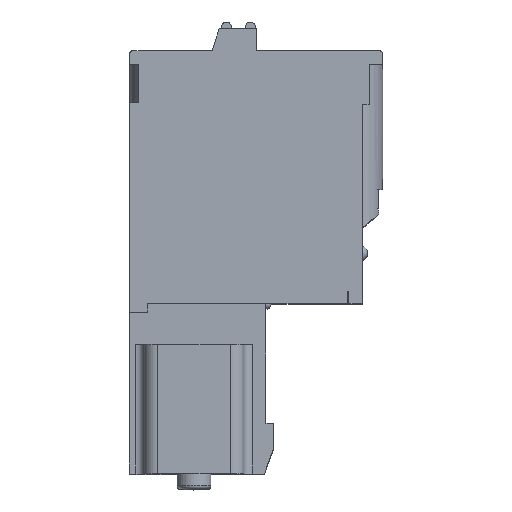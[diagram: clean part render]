
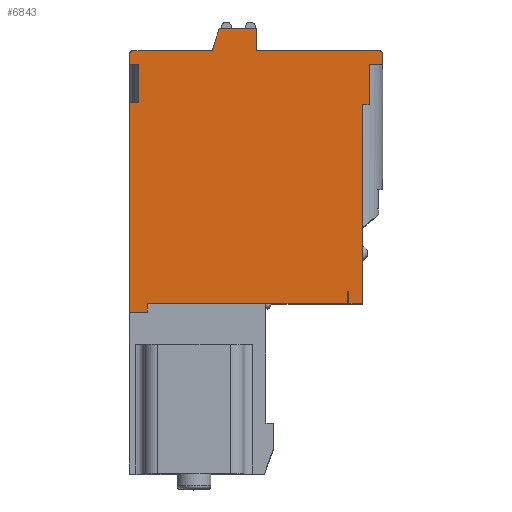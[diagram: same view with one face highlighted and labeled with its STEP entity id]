
A CAD part, top view. The second image highlights one B-rep face of the part: STEP entity #6843.
In plain terms, the highlighted planar face has unit normal (0, 0, 1).
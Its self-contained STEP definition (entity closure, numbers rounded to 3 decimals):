
#93=DIRECTION('',(-1.,0.,0.));
#94=VECTOR('',#93,4.703);
#95=CARTESIAN_POINT('',(4.903,15.5,0.));
#96=LINE('',#95,#94);
#328=DIRECTION('',(0.,1.,0.));
#329=VECTOR('',#328,0.7);
#330=CARTESIAN_POINT('',(12.9,0.5,0.));
#331=LINE('',#330,#329);
#332=DIRECTION('',(0.,1.,0.));
#333=VECTOR('',#332,0.7);
#334=CARTESIAN_POINT('',(13.,0.5,0.));
#335=LINE('',#334,#333);
#336=DIRECTION('',(1.,0.,0.));
#337=VECTOR('',#336,0.1);
#338=CARTESIAN_POINT('',(12.9,1.2,0.));
#339=LINE('',#338,#337);
#340=DIRECTION('',(-1.,0.,0.));
#341=VECTOR('',#340,1.054);
#342=CARTESIAN_POINT('',(1.054,0.,0.));
#343=LINE('',#342,#341);
#344=DIRECTION('',(0.,1.,0.));
#345=VECTOR('',#344,12.45);
#346=CARTESIAN_POINT('',(0.,0.,0.));
#347=LINE('',#346,#345);
#348=DIRECTION('',(1.,0.,0.));
#349=VECTOR('',#348,0.55);
#350=CARTESIAN_POINT('',(0.,12.45,0.));
#351=LINE('',#350,#349);
#352=DIRECTION('',(0.,1.,0.));
#353=VECTOR('',#352,2.25);
#354=CARTESIAN_POINT('',(0.55,12.45,0.));
#355=LINE('',#354,#353);
#356=DIRECTION('',(0.,1.,0.));
#357=VECTOR('',#356,0.6);
#358=CARTESIAN_POINT('',(0.,14.7,0.));
#359=LINE('',#358,#357);
#360=CARTESIAN_POINT('',(0.2,15.3,0.));
#361=DIRECTION('',(0.,0.,-1.));
#362=DIRECTION('',(-1.,0.,0.));
#363=AXIS2_PLACEMENT_3D('',#360,#361,#362);
#365=DIRECTION('',(0.292,0.956,0.));
#366=VECTOR('',#365,1.359);
#367=CARTESIAN_POINT('',(4.903,15.5,0.));
#368=LINE('',#367,#366);
#369=DIRECTION('',(1.,0.,0.));
#370=VECTOR('',#369,2.2);
#371=CARTESIAN_POINT('',(5.3,16.8,0.));
#372=LINE('',#371,#370);
#373=DIRECTION('',(0.,-1.,0.));
#374=VECTOR('',#373,1.3);
#375=CARTESIAN_POINT('',(7.5,16.8,0.));
#376=LINE('',#375,#374);
#377=CARTESIAN_POINT('',(14.8,15.3,0.));
#378=DIRECTION('',(0.,0.,-1.));
#379=DIRECTION('',(0.,1.,0.));
#380=AXIS2_PLACEMENT_3D('',#377,#378,#379);
#382=DIRECTION('',(0.,-1.,0.));
#383=VECTOR('',#382,0.6);
#384=CARTESIAN_POINT('',(15.,15.3,0.));
#385=LINE('',#384,#383);
#386=DIRECTION('',(-1.,0.,0.));
#387=VECTOR('',#386,0.8);
#388=CARTESIAN_POINT('',(15.,14.7,0.));
#389=LINE('',#388,#387);
#390=DIRECTION('',(0.,-1.,0.));
#391=VECTOR('',#390,2.4);
#392=CARTESIAN_POINT('',(14.2,14.7,0.));
#393=LINE('',#392,#391);
#394=DIRECTION('',(-1.,0.,0.));
#395=VECTOR('',#394,0.4);
#396=CARTESIAN_POINT('',(14.2,12.3,0.));
#397=LINE('',#396,#395);
#398=DIRECTION('',(0.,-1.,0.));
#399=VECTOR('',#398,11.8);
#400=CARTESIAN_POINT('',(13.8,12.3,0.));
#401=LINE('',#400,#399);
#402=DIRECTION('',(-1.,0.,0.));
#403=VECTOR('',#402,0.8);
#404=CARTESIAN_POINT('',(13.8,0.5,0.));
#405=LINE('',#404,#403);
#780=DIRECTION('',(-1.,0.,0.));
#781=VECTOR('',#780,7.3);
#782=CARTESIAN_POINT('',(14.8,15.5,0.));
#783=LINE('',#782,#781);
#2398=DIRECTION('',(1.,0.,0.));
#2399=VECTOR('',#2398,4.82);
#2400=CARTESIAN_POINT('',(8.08,0.5,0.));
#2401=LINE('',#2400,#2399);
#2456=DIRECTION('',(0.,1.,0.));
#2457=VECTOR('',#2456,0.5);
#2458=CARTESIAN_POINT('',(1.054,0.,0.));
#2459=LINE('',#2458,#2457);
#2472=DIRECTION('',(1.,0.,0.));
#2473=VECTOR('',#2472,7.026);
#2474=CARTESIAN_POINT('',(1.054,0.5,0.));
#2475=LINE('',#2474,#2473);
#4360=DIRECTION('',(1.,0.,0.));
#4361=VECTOR('',#4360,0.55);
#4362=CARTESIAN_POINT('',(0.,14.7,0.));
#4363=LINE('',#4362,#4361);
#4843=CARTESIAN_POINT('',(0.,0.,0.));
#4844=VERTEX_POINT('',#4843);
#4974=CARTESIAN_POINT('',(8.08,0.5,0.));
#4975=VERTEX_POINT('',#4974);
#4986=CARTESIAN_POINT('',(12.9,0.5,0.));
#4987=VERTEX_POINT('',#4986);
#5016=CARTESIAN_POINT('',(13.,0.5,0.));
#5018=VERTEX_POINT('',#5016);
#5032=CARTESIAN_POINT('',(13.8,0.5,0.));
#5033=VERTEX_POINT('',#5032);
#5058=CARTESIAN_POINT('',(13.8,12.3,0.));
#5059=VERTEX_POINT('',#5058);
#5128=CARTESIAN_POINT('',(14.8,15.5,0.));
#5129=VERTEX_POINT('',#5128);
#5130=CARTESIAN_POINT('',(7.5,15.5,0.));
#5131=VERTEX_POINT('',#5130);
#5200=CARTESIAN_POINT('',(0.2,15.5,0.));
#5201=VERTEX_POINT('',#5200);
#5222=CARTESIAN_POINT('',(4.903,15.5,0.));
#5223=VERTEX_POINT('',#5222);
#5252=CARTESIAN_POINT('',(0.,15.3,0.));
#5253=VERTEX_POINT('',#5252);
#5258=CARTESIAN_POINT('',(0.,14.7,0.));
#5259=VERTEX_POINT('',#5258);
#5284=CARTESIAN_POINT('',(0.,12.45,0.));
#5285=VERTEX_POINT('',#5284);
#5334=CARTESIAN_POINT('',(0.55,14.7,0.));
#5335=VERTEX_POINT('',#5334);
#5336=CARTESIAN_POINT('',(0.55,12.45,0.));
#5337=VERTEX_POINT('',#5336);
#5338=CARTESIAN_POINT('',(5.3,16.8,0.));
#5339=VERTEX_POINT('',#5338);
#5340=CARTESIAN_POINT('',(7.5,16.8,0.));
#5341=VERTEX_POINT('',#5340);
#5342=CARTESIAN_POINT('',(15.,15.3,0.));
#5343=VERTEX_POINT('',#5342);
#5344=CARTESIAN_POINT('',(15.,14.7,0.));
#5345=VERTEX_POINT('',#5344);
#5346=CARTESIAN_POINT('',(14.2,14.7,0.));
#5347=VERTEX_POINT('',#5346);
#5348=CARTESIAN_POINT('',(14.2,12.3,0.));
#5349=VERTEX_POINT('',#5348);
#5905=CARTESIAN_POINT('',(1.054,0.,0.));
#5906=CARTESIAN_POINT('',(1.054,0.5,0.));
#5907=VERTEX_POINT('',#5905);
#5908=VERTEX_POINT('',#5906);
#5913=CARTESIAN_POINT('',(12.9,1.2,0.));
#5915=VERTEX_POINT('',#5913);
#5930=CARTESIAN_POINT('',(13.,1.2,0.));
#5932=VERTEX_POINT('',#5930);
#6792=CARTESIAN_POINT('',(0.,16.8,0.));
#6793=DIRECTION('',(0.,0.,-1.));
#6794=DIRECTION('',(0.,-1.,0.));
#6795=AXIS2_PLACEMENT_3D('',#6792,#6793,#6794);
#6796=PLANE('',#6795);
#6798=ORIENTED_EDGE('',*,*,#6797,.T.);
#6799=ORIENTED_EDGE('',*,*,#6784,.F.);
#6800=ORIENTED_EDGE('',*,*,#6773,.F.);
#6802=ORIENTED_EDGE('',*,*,#6801,.F.);
#6804=ORIENTED_EDGE('',*,*,#6803,.F.);
#6806=ORIENTED_EDGE('',*,*,#6805,.F.);
#6808=ORIENTED_EDGE('',*,*,#6807,.T.);
#6809=ORIENTED_EDGE('',*,*,#6669,.T.);
#6811=ORIENTED_EDGE('',*,*,#6810,.T.);
#6813=ORIENTED_EDGE('',*,*,#6812,.T.);
#6815=ORIENTED_EDGE('',*,*,#6814,.F.);
#6816=ORIENTED_EDGE('',*,*,#6562,.T.);
#6817=ORIENTED_EDGE('',*,*,#6545,.T.);
#6818=ORIENTED_EDGE('',*,*,#6494,.F.);
#6820=ORIENTED_EDGE('',*,*,#6819,.T.);
#6822=ORIENTED_EDGE('',*,*,#6821,.T.);
#6824=ORIENTED_EDGE('',*,*,#6823,.T.);
#6826=ORIENTED_EDGE('',*,*,#6825,.F.);
#6828=ORIENTED_EDGE('',*,*,#6827,.T.);
#6830=ORIENTED_EDGE('',*,*,#6829,.T.);
#6832=ORIENTED_EDGE('',*,*,#6831,.T.);
#6834=ORIENTED_EDGE('',*,*,#6833,.T.);
#6836=ORIENTED_EDGE('',*,*,#6835,.T.);
#6838=ORIENTED_EDGE('',*,*,#6837,.T.);
#6840=ORIENTED_EDGE('',*,*,#6839,.T.);
#6841=EDGE_LOOP('',(#6798,#6799,#6800,#6802,#6804,#6806,#6808,#6809,#6811,#6813,
#6815,#6816,#6817,#6818,#6820,#6822,#6824,#6826,#6828,#6830,#6832,#6834,#6836,
#6838,#6840));
#6842=FACE_OUTER_BOUND('',#6841,.F.);
#6843=ADVANCED_FACE('',(#6842),#6796,.F.);
#364=CIRCLE('',#363,0.2);
#381=CIRCLE('',#380,0.2);
#6494=EDGE_CURVE('',#5223,#5201,#96,.T.);
#6545=EDGE_CURVE('',#5253,#5201,#364,.T.);
#6562=EDGE_CURVE('',#5259,#5253,#359,.T.);
#6669=EDGE_CURVE('',#4844,#5285,#347,.T.);
#6773=EDGE_CURVE('',#4987,#5915,#331,.T.);
#6784=EDGE_CURVE('',#5915,#5932,#339,.T.);
#6797=EDGE_CURVE('',#5018,#5932,#335,.T.);
#6801=EDGE_CURVE('',#4975,#4987,#2401,.T.);
#6803=EDGE_CURVE('',#5908,#4975,#2475,.T.);
#6805=EDGE_CURVE('',#5907,#5908,#2459,.T.);
#6807=EDGE_CURVE('',#5907,#4844,#343,.T.);
#6810=EDGE_CURVE('',#5285,#5337,#351,.T.);
#6812=EDGE_CURVE('',#5337,#5335,#355,.T.);
#6814=EDGE_CURVE('',#5259,#5335,#4363,.T.);
#6819=EDGE_CURVE('',#5223,#5339,#368,.T.);
#6821=EDGE_CURVE('',#5339,#5341,#372,.T.);
#6823=EDGE_CURVE('',#5341,#5131,#376,.T.);
#6825=EDGE_CURVE('',#5129,#5131,#783,.T.);
#6827=EDGE_CURVE('',#5129,#5343,#381,.T.);
#6829=EDGE_CURVE('',#5343,#5345,#385,.T.);
#6831=EDGE_CURVE('',#5345,#5347,#389,.T.);
#6833=EDGE_CURVE('',#5347,#5349,#393,.T.);
#6835=EDGE_CURVE('',#5349,#5059,#397,.T.);
#6837=EDGE_CURVE('',#5059,#5033,#401,.T.);
#6839=EDGE_CURVE('',#5033,#5018,#405,.T.);
